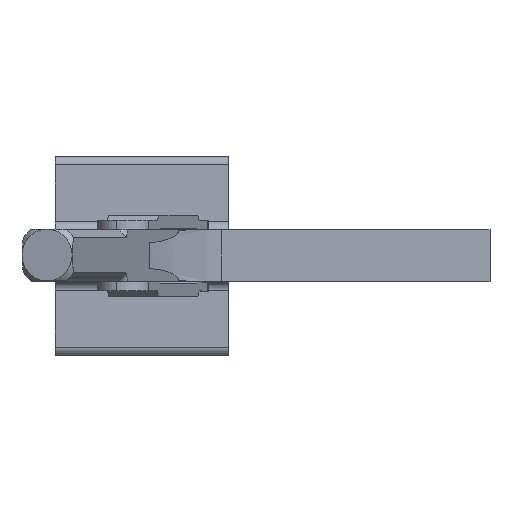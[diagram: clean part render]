
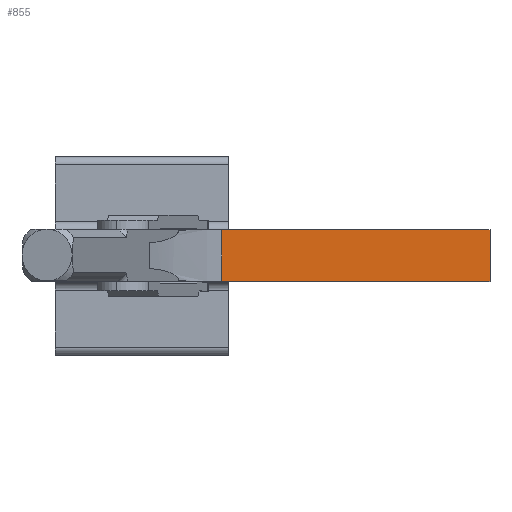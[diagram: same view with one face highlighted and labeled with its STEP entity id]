
A CAD part, top view. The second image highlights one B-rep face of the part: STEP entity #855.
In plain terms, the highlighted planar face has unit normal (0, 0, 1).
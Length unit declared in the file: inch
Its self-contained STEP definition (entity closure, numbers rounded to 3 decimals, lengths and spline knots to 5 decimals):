
#855 = ADVANCED_FACE( '', ( #1216 ), #1217, .T. );
#1216 = FACE_OUTER_BOUND( '', #1618, .T. );
#1217 = PLANE( '', #1619 );
#1618 = EDGE_LOOP( '', ( #3016, #3017, #3018, #3019 ) );
#1619 = AXIS2_PLACEMENT_3D( '', #3020, #3021, #3022 );
#3016 = ORIENTED_EDGE( '', *, *, #3601, .T. );
#3017 = ORIENTED_EDGE( '', *, *, #3602, .F. );
#3018 = ORIENTED_EDGE( '', *, *, #3603, .F. );
#3019 = ORIENTED_EDGE( '', *, *, #3554, .T. );
#3020 = CARTESIAN_POINT( '', ( 6.27975, 0.375, 4.1875 ) );
#3021 = DIRECTION( '', ( 0., 0., 1. ) );
#3022 = DIRECTION( '', ( 1., 0., 0. ) );
#3554 = EDGE_CURVE( '', #4301, #4298, #4302, .T. );
#3601 = EDGE_CURVE( '', #4298, #4378, #4380, .T. );
#3602 = EDGE_CURVE( '', #4381, #4378, #4382, .T. );
#3603 = EDGE_CURVE( '', #4301, #4381, #4383, .T. );
#4298 = VERTEX_POINT( '', #5383 );
#4301 = VERTEX_POINT( '', #5386 );
#4302 = LINE( '', #5387, #5388 );
#4378 = VERTEX_POINT( '', #5521 );
#4380 = LINE( '', #5523, #5524 );
#4381 = VERTEX_POINT( '', #5525 );
#4382 = LINE( '', #5526, #5527 );
#4383 = LINE( '', #5528, #5529 );
#5383 = CARTESIAN_POINT( '', ( 2.40475, 0.375, 4.1875 ) );
#5386 = CARTESIAN_POINT( '', ( 6.27975, 0.375, 4.1875 ) );
#5387 = CARTESIAN_POINT( '', ( 6.27975, 0.375, 4.1875 ) );
#5388 = VECTOR( '', #6314, 1. );
#5521 = CARTESIAN_POINT( '', ( 2.40475, -0.375, 4.1875 ) );
#5523 = CARTESIAN_POINT( '', ( 2.40475, 0.375, 4.1875 ) );
#5524 = VECTOR( '', #6390, 1. );
#5525 = CARTESIAN_POINT( '', ( 6.27975, -0.375, 4.1875 ) );
#5526 = CARTESIAN_POINT( '', ( 6.27975, -0.375, 4.1875 ) );
#5527 = VECTOR( '', #6391, 1. );
#5528 = CARTESIAN_POINT( '', ( 6.27975, 0.375, 4.1875 ) );
#5529 = VECTOR( '', #6392, 1. );
#6314 = DIRECTION( '', ( -1., 0., 0. ) );
#6390 = DIRECTION( '', ( 0., -1., 0. ) );
#6391 = DIRECTION( '', ( -1., 0., 0. ) );
#6392 = DIRECTION( '', ( 0., -1., 0. ) );
